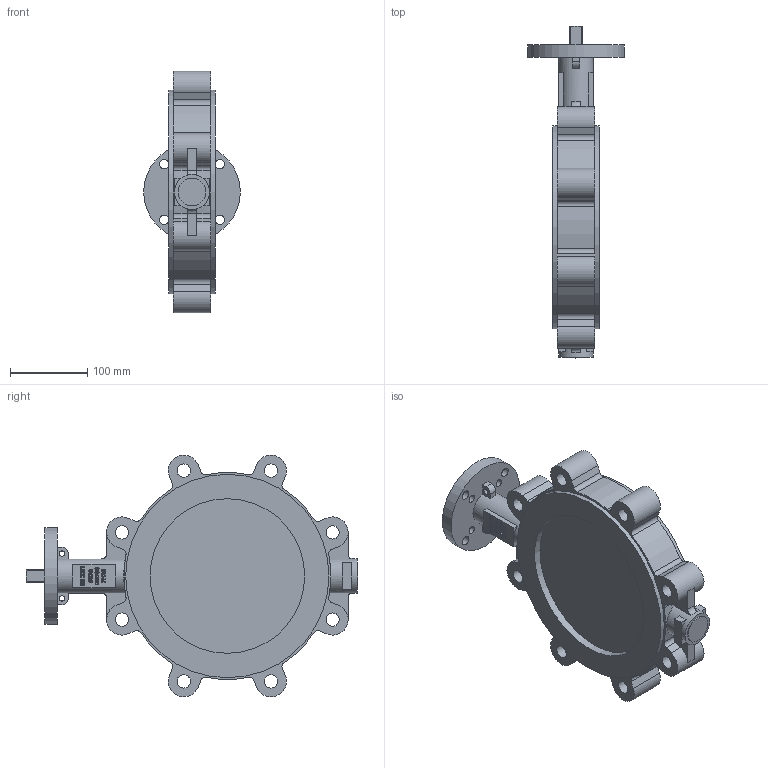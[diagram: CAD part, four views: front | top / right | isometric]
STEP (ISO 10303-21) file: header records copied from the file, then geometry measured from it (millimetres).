
FILE_DESCRIPTION(/* description */ (''),/* implementation_level */ '2;1');
FILE_NAME(/* name */ '6820-DN200-PN10-EPDM - 13332756.stp',/* time_stamp */ '2024-09-05T07:27:03+02:00',/* author */ ('roger.thijssen'),/* organization */ (''),/* preprocessor_version */ 'ST-DEVELOPER v20',/* originating_system */ 'Autodesk Inventor 2024',/* authorisation */ '');
FILE_SCHEMA (('AUTOMOTIVE_DESIGN { 1 0 10303 214 3 1 1 }'));
Length unit declared in the file: millimetre
Products named in the file (1): 6820-DN200-PN10
Bounding box: 125 x 429.5 x 312.51 mm (x, y, z)
Volume: 3517434.9 mm3; surface area: 285391.8 mm2
Topology: 1 solids, 1 shells, 490 faces, 1325 edges, 879 vertices
Faces by surface type: plane 256, bspline 128, cylinder 97, cone 5, torus 4
Full cylindrical faces by diameter (mm): 4.917 x1, 7 x2, 10 x4, 12 x4, 17.294 x8, 36 x1, 45 x2, 125 x1, 200 x2, 263 x2
Entity records: 17298 total; most frequent: CARTESIAN_POINT 5019, ORIENTED_EDGE 2648, DIRECTION 2012, EDGE_CURVE 1324, VERTEX_POINT 879, LINE 806, VECTOR 806, AXIS2_PLACEMENT_3D 603
